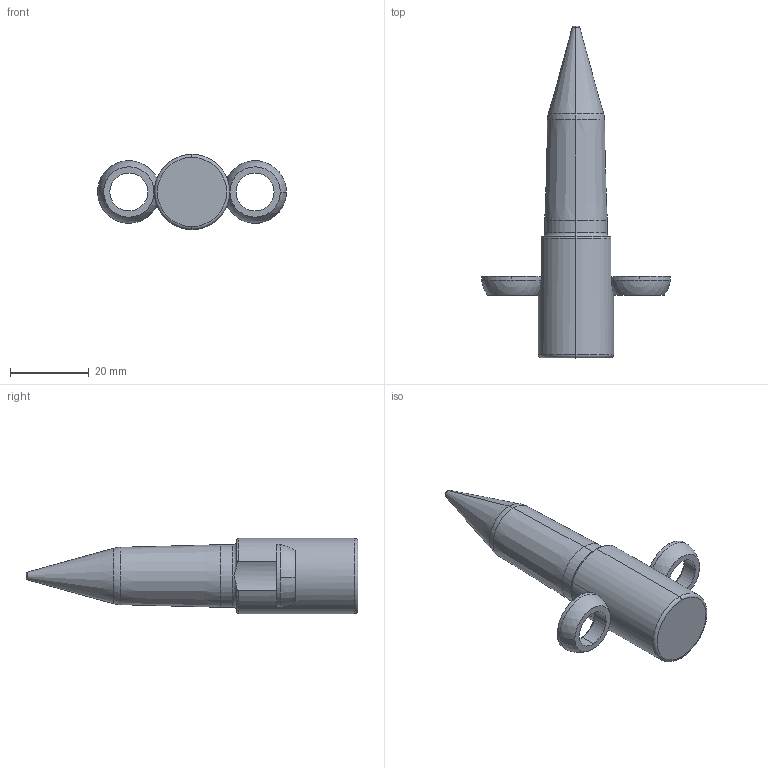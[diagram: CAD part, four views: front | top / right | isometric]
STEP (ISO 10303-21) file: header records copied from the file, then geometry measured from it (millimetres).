
FILE_DESCRIPTION (( 'STEP AP214' ), '1' );
FILE_NAME ('PA-T-.625-.125-1.0-3-A-F2.STEP', '2019-05-08T17:41:10', ( '' ), ( '' ), 'SwSTEP 2.0', 'SolidWorks 2017', '' );
FILE_SCHEMA (( 'AUTOMOTIVE_DESIGN' ));
Length unit declared in the file: inch
Products named in the file (3): SLPilot-PA-T-E_PA-T-.625-.125-1.0-3-A-F2; SLRadiusWasher_RadiusWasher-E; PA-T-.625-.125-1.0-3-A-F2
Assembly tree (3 placements, depth 2):
  PA-T-.625-.125-1.0-3-A-F2
    SLPilot-PA-T-E_PA-T-.625-.125-1.0-3-A-F2
    SLRadiusWasher_RadiusWasher-E  x2
Bounding box: 47.87 x 84.15 x 19.05 mm (x, y, z)
Volume: 16549.7 mm3; surface area: 5326 mm2
Topology: 3 solids, 3 shells, 49 faces, 112 edges, 69 vertices
Faces by surface type: cylinder 14, torus 11, sphere 8, cone 8, plane 8
Entity records: 1384 total; most frequent: CARTESIAN_POINT 332, DIRECTION 232, ORIENTED_EDGE 180, AXIS2_PLACEMENT_3D 107, EDGE_CURVE 90, CIRCLE 62, VERTEX_POINT 55, EDGE_LOOP 41
